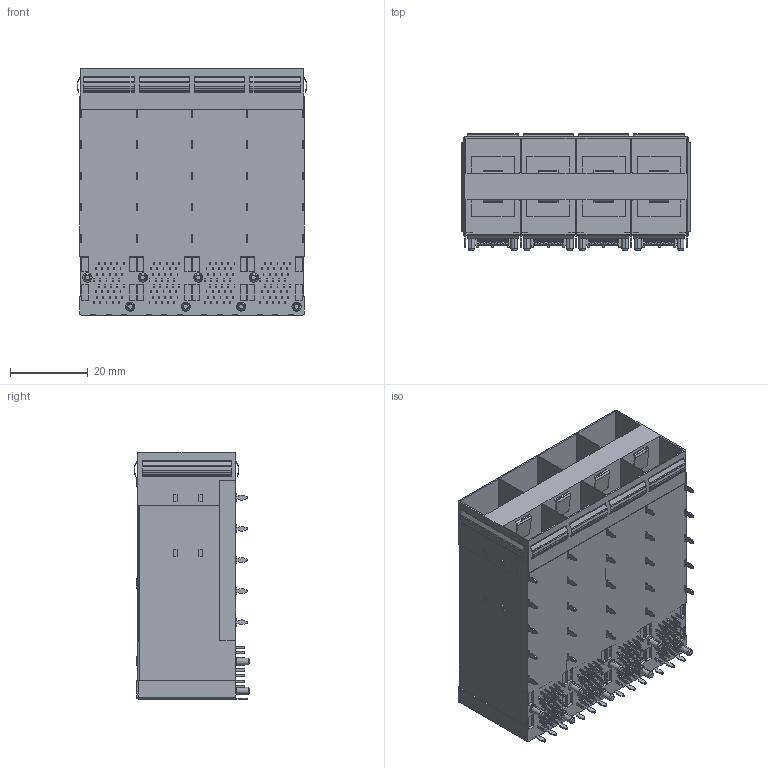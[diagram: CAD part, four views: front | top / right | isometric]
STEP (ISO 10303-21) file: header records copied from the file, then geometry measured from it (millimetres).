
FILE_DESCRIPTION (( 'STEP AP203' ), '1' );
FILE_NAME ('22400_SFP+ 2X4 拸絳嫖翐.STEP', '2024-06-05T00:34:43', ( '' ), ( '' ), 'SwSTEP 2.0', 'SolidWorks 2018', '' );
FILE_SCHEMA (( 'CONFIG_CONTROL_DESIGN' ));
Length unit declared in the file: millimetre
Products named in the file (1): 22400_SFP+ 2X4 拸絳嫖翐
Bounding box: 59.06 x 29.78 x 63.25 mm (x, y, z)
Volume: 46939.2 mm3; surface area: 34585.8 mm2
Topology: 1 solids, 1 shells, 2121 faces, 5895 edges, 4002 vertices
Faces by surface type: plane 1579, cylinder 508, cone 32, sphere 2
Entity records: 67880 total; most frequent: CARTESIAN_POINT 12017, ORIENTED_EDGE 11786, DIRECTION 11189, EDGE_CURVE 5893, LINE 4841, VECTOR 4841, VERTEX_POINT 4002, AXIS2_PLACEMENT_3D 3174
